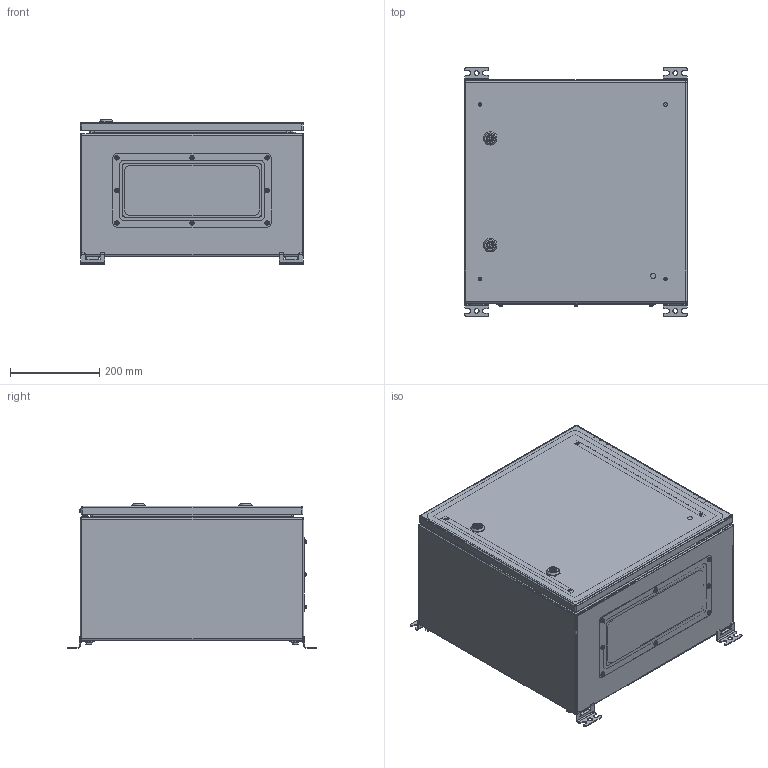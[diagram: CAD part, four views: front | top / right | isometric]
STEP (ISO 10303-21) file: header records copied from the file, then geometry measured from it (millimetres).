
FILE_DESCRIPTION(('STEP AP242'), '1');
FILE_NAME('400 ﾙﾌﾏ-1 (IP-56)', '', ('UNSPECIFIED'), ('UNSPECIFIED'), 'C3D Converter', 'C3D Toolkit', '');
FILE_SCHEMA(('AP242_MANAGED_MODEL_BASED_3D_ENGINEERING_MIM_LF { 1 0 10303 442 1 1 4 }'));
Length unit declared in the file: millimetre
Products named in the file (51): ЩМП-1-ЛФ СБ; 410-ЛФ; 420; 421; 411-Ф; 430-Л; 431-Л; 490; 491; 401.01; 440-Ф; 441-Ф; 402; 403; 450; 451; ЦИУЛ.210677.00.03-03; 452
Assembly tree (134 placements, depth 4):
  ЩМП-1-ЛФ СБ
    410-ЛФ
      420
        421
        (unnamed)  x4
        (unnamed)
      411-Ф
      430-Л
        431-Л
        (unnamed)  x8
    490  x2
      491
      (unnamed)
      (unnamed)
      (unnamed)
      (unnamed)
      (unnamed)
    490  x2
      491
      (unnamed)
      (unnamed)
      (unnamed)
      (unnamed)
      (unnamed)
    401.01
    (unnamed)  x4
    (unnamed)  x4
    (unnamed)  x4
    (unnamed)  x4
    (unnamed)  x2
      (unnamed)
      (unnamed)
      (unnamed)
    (unnamed)  x12
    440-Ф
      441-Ф
      (unnamed)
      (unnamed)  x4
      (unnamed)  x2
    402  x2
    (unnamed)  x4
    (unnamed)  x4
    (unnamed)  x2
      (unnamed)
      (unnamed)
      (unnamed)
      (unnamed)
      (unnamed)
    (unnamed)  x2
    403
    (unnamed)  x8
    (unnamed)  x8
    450
      451
      (unnamed)  x3
      (unnamed)  x2
      (unnamed)  x2
      (unnamed)  x3
      ЦИУЛ.210677.00.03-03
      452
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Bounding box: 500 x 556 x 323.1 mm (x, y, z)
Volume: 2523473.5 mm3; surface area: 3043051.1 mm2
Topology: 145 solids, 145 shells, 2825 faces, 6720 edges, 4274 vertices
Faces by surface type: plane 1613, cylinder 779, cone 275, extrusion 54, sphere 39, torus 33, bspline 32
Full cylindrical faces by diameter (mm): 0.5 x4, 2.6 x8, 3.3 x1, 3.5 x60, 4 x1, 4.134 x11, 4.2 x5, 4.917 x4, 5 x17, 5.3 x2, 5.5 x19, 5.75 x3, 5.8 x2, 6 x26, 6.38 x8, 6.4 x12, 6.647 x8, 7 x6, 7.3 x4, 7.4 x1, 7.5 x6, 7.74 x8, 8 x14, 8.376 x4, 8.4 x8, 8.5 x27, 8.7 x8, 9 x12, 10 x18, 10.4 x2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
Entity records: 72021 total; most frequent: CARTESIAN_POINT 36539, DIRECTION 5802, ORIENTED_EDGE 5512, EDGE_CURVE 2756, AXIS2_PLACEMENT_3D 2134, VERTEX_POINT 1862, EDGE_LOOP 1610, VECTOR 1534
